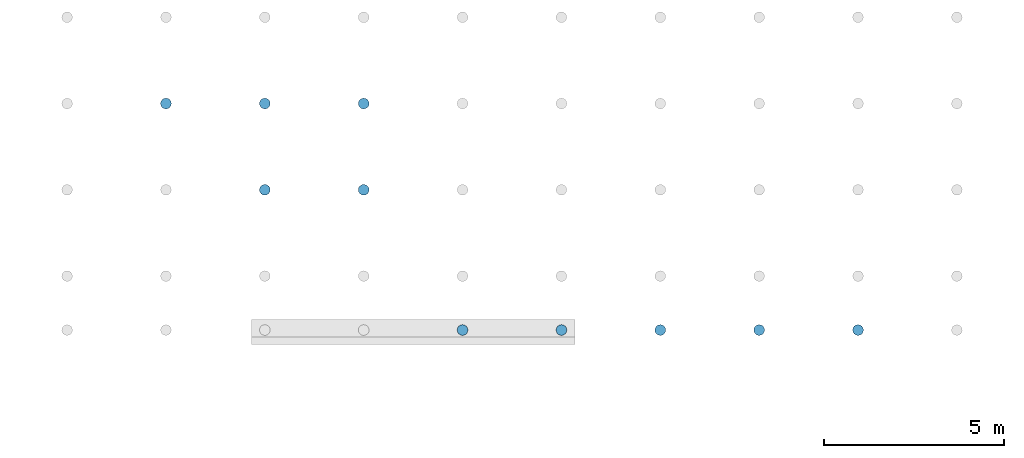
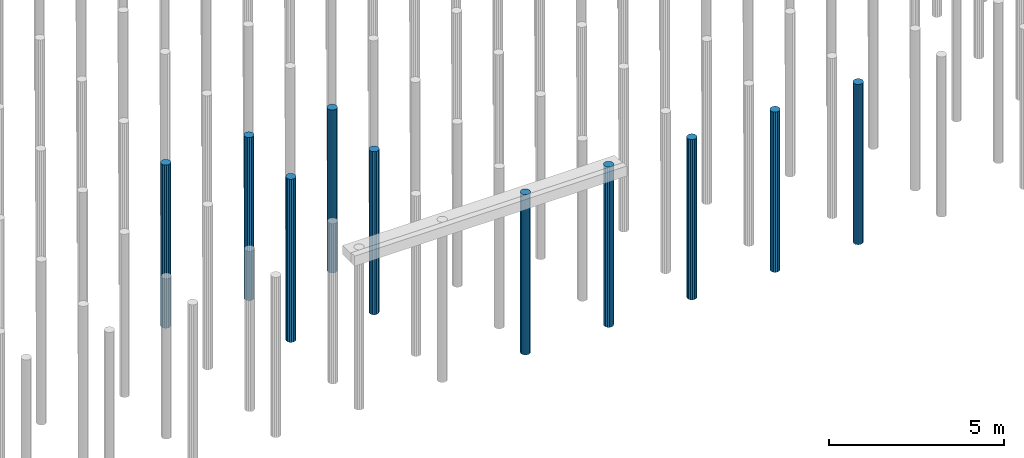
# One storey, part 53 of 102: 10 slabs.
"""IFC2X3 building model written with IfcOpenShell, lengths in millimetres."""

from ifc_helpers import new_model, entity, si_unit, converted_unit, derived_unit, money_unit, direction, frame, origin_with_axes, place, context, subcontext, project, spatial, faceted_brep, material, type_object, element, save


model = new_model("IFC2X3")

# Units and contexts
model_context = context("Model", 3, precision=0.01, world=origin_with_axes(), true_north=direction((0.0, 1.0)))
body_context = subcontext(model_context, "Body", "Model", "MODEL_VIEW")
ifc_project = project(units=[si_unit("LENGTHUNIT", "METRE", prefix="MILLI"), si_unit("AREAUNIT", "SQUARE_METRE"), si_unit("VOLUMEUNIT", "CUBIC_METRE"), converted_unit("PLANEANGLEUNIT", "DEGREE", entity("IfcPlaneAngleMeasure", 0.0174532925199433), si_unit("PLANEANGLEUNIT", "RADIAN"), dimensions=[0, 0, 0, 0, 0, 0, 0]), money_unit("EUR"), converted_unit("TIMEUNIT", "Year", entity("IfcTimeMeasure", 31557600.0), si_unit("TIMEUNIT", "SECOND"), dimensions=[0, 0, 1, 0, 0, 0, 0]), si_unit("MASSUNIT", "GRAM", prefix="KILO"), si_unit("THERMODYNAMICTEMPERATUREUNIT", "DEGREE_CELSIUS"), si_unit("LUMINOUSINTENSITYUNIT", "LUMEN"), si_unit("ENERGYUNIT", "JOULE", prefix="MEGA"), derived_unit("THERMALCONDUCTANCEUNIT", [(si_unit("POWERUNIT", "WATT"), 1), (si_unit("LENGTHUNIT", "METRE"), -1), (si_unit("THERMODYNAMICTEMPERATUREUNIT", "KELVIN"), -1)]), derived_unit("SPECIFICHEATCAPACITYUNIT", [(si_unit("ENERGYUNIT", "JOULE"), 1), (si_unit("MASSUNIT", "GRAM", prefix="KILO"), -1), (si_unit("THERMODYNAMICTEMPERATUREUNIT", "KELVIN"), -1)]), derived_unit("MASSDENSITYUNIT", [(si_unit("MASSUNIT", "GRAM", prefix="KILO"), 1), (si_unit("VOLUMEUNIT", "CUBIC_METRE"), -1)])], contexts=[model_context])

# Site, building, storey
site_placement = place(None, origin_with_axes())
site = spatial("IfcSite", under=ifc_project, at=site_placement, Name="Site", CompositionType="ELEMENT")
building_placement = place(site_placement, origin_with_axes())
building = spatial("IfcBuilding", under=site, at=building_placement, Name="Naam gebouw", CompositionType="ELEMENT")
storey_placement = place(building_placement, frame((0.0, 0.0, -1020.0), z_axis=(0.0, 0.0, 1.0), x_axis=(1.0, 0.0, 0.0)))
storey = spatial("IfcBuildingStorey", under=building, at=storey_placement, Name="-2 fundering", CompositionType="ELEMENT", Elevation=-1020.0)

# Slabs
ifc_material = material(Name="WSP_beton - ihwg beton")
slab_type_1 = type_object("IfcSlabType", Name="Slab 533", PredefinedType="NOTDEFINED")
slab_1_placement = place(storey_placement, frame((25299.99999999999, 30000.0, 979.9999952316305), z_axis=(0.0, 0.0, 1.0), x_axis=(1.0, 0.0, 0.0)))
element("IfcSlab", 1, at=slab_1_placement, inside=storey, type_object=slab_type_1, material=ifc_material, Name="17_WSP_FD_beton - fundatiepaal v21-2:ø300 (schroef)", PredefinedType="NOTDEFINED", context=body_context, shape_type="Brep", body=[
    faceted_brep([(75876.0, 36001.0, -5980.0), (75874.0, 36001.0, -5980.0), (75874.0, 36001.0, -5978.000000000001), (75876.0, 36001.0, -5978.000000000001), (75876.0, 35999.0, -5980.0), (75874.0, 35999.0, -5980.0), (75874.0, 35999.0, -5978.000000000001), (75876.0, 35999.0, -5978.000000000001)], [[[0, 1, 2, 3]], [[0, 4, 5, 1]], [[1, 5, 6, 2]], [[3, 2, 6, 7]], [[4, 0, 3, 7]], [[5, 4, 7, 6]]]),
    faceted_brep([(75725.0, 36000.0, -5980.0), (75736.41807012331, 35942.59748514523, -5980.0), (75736.41807012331, 35942.59748514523, -280.0000000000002), (75725.0, 36000.0, -280.0000000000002), (75736.41807012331, 36057.40251485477, -5980.0), (75768.93398282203, 36106.06601717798, -5980.0), (75817.59748514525, 36138.58192987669, -5980.0), (75875.0, 36150.0, -5980.0), (75932.40251485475, 36138.58192987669, -5980.0), (75981.06601717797, 36106.06601717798, -5980.0), (76013.58192987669, 36057.40251485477, -5980.0), (76025.0, 36000.0, -5980.0), (76013.58192987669, 35942.59748514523, -5980.0), (75981.06601717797, 35893.93398282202, -5980.0), (75932.40251485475, 35861.41807012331, -5980.0), (75875.0, 35850.0, -5980.0), (75817.59748514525, 35861.41807012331, -5980.0), (75768.93398282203, 35893.93398282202, -5980.0), (75768.93398282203, 35893.93398282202, -280.0000000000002), (75817.59748514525, 35861.41807012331, -280.0000000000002), (75875.0, 35850.0, -280.0000000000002), (75932.40251485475, 35861.41807012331, -280.0000000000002), (75981.06601717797, 35893.93398282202, -280.0000000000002), (76013.58192987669, 35942.59748514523, -280.0000000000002), (76025.0, 36000.0, -280.0000000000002), (76013.58192987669, 36057.40251485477, -280.0000000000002), (75981.06601717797, 36106.06601717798, -280.0000000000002), (75932.40251485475, 36138.58192987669, -280.0000000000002), (75875.0, 36150.0, -280.0000000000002), (75817.59748514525, 36138.58192987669, -280.0000000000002), (75768.93398282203, 36106.06601717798, -280.0000000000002), (75736.41807012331, 36057.40251485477, -280.0000000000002)], [[[0, 1, 2, 3]], [[0, 4, 5, 6, 7, 8, 9, 10, 11, 12, 13, 14, 15, 16, 17, 1]], [[1, 17, 18, 2]], [[3, 2, 18, 19, 20, 21, 22, 23, 24, 25, 26, 27, 28, 29, 30, 31]], [[4, 0, 3, 31]], [[5, 4, 31, 30]], [[6, 5, 30, 29]], [[7, 6, 29, 28]], [[8, 7, 28, 27]], [[9, 8, 27, 26]], [[10, 9, 26, 25]], [[11, 10, 25, 24]], [[12, 11, 24, 23]], [[13, 12, 23, 22]], [[14, 13, 22, 21]], [[15, 14, 21, 20]], [[16, 15, 20, 19]], [[17, 16, 19, 18]]]),
])
slab_type_2 = type_object("IfcSlabType", Name="Slab 534", PredefinedType="NOTDEFINED")
slab_2_placement = place(storey_placement, frame((25299.99999999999, 30000.0, 979.9999952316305), z_axis=(0.0, 0.0, 1.0), x_axis=(1.0, 0.0, 0.0)))
element("IfcSlab", 2, at=slab_2_placement, inside=storey, type_object=slab_type_2, material=ifc_material, Name="17_WSP_FD_beton - fundatiepaal v21-2:ø300 (schroef)", PredefinedType="NOTDEFINED", context=body_context, shape_type="Brep", body=[
    faceted_brep([(78626.0, 36001.0, -5980.0), (78624.0, 36001.0, -5980.0), (78624.0, 36001.0, -5978.000000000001), (78626.0, 36001.0, -5978.000000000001), (78626.0, 35999.0, -5980.0), (78624.0, 35999.0, -5980.0), (78624.0, 35999.0, -5978.000000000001), (78626.0, 35999.0, -5978.000000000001)], [[[0, 1, 2, 3]], [[0, 4, 5, 1]], [[1, 5, 6, 2]], [[3, 2, 6, 7]], [[4, 0, 3, 7]], [[5, 4, 7, 6]]]),
    faceted_brep([(78475.0, 36000.0, -5980.0), (78486.41807012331, 35942.59748514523, -5980.0), (78486.41807012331, 35942.59748514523, -280.0000000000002), (78475.0, 36000.0, -280.0000000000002), (78486.41807012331, 36057.40251485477, -5980.0), (78518.93398282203, 36106.06601717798, -5980.0), (78567.59748514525, 36138.58192987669, -5980.0), (78625.0, 36150.0, -5980.0), (78682.40251485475, 36138.58192987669, -5980.0), (78731.06601717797, 36106.06601717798, -5980.0), (78763.58192987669, 36057.40251485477, -5980.0), (78775.0, 36000.0, -5980.0), (78763.58192987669, 35942.59748514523, -5980.0), (78731.06601717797, 35893.93398282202, -5980.0), (78682.40251485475, 35861.41807012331, -5980.0), (78625.0, 35850.0, -5980.0), (78567.59748514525, 35861.41807012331, -5980.0), (78518.93398282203, 35893.93398282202, -5980.0), (78518.93398282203, 35893.93398282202, -280.0000000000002), (78567.59748514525, 35861.41807012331, -280.0000000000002), (78625.0, 35850.0, -280.0000000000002), (78682.40251485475, 35861.41807012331, -280.0000000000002), (78731.06601717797, 35893.93398282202, -280.0000000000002), (78763.58192987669, 35942.59748514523, -280.0000000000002), (78775.0, 36000.0, -280.0000000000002), (78763.58192987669, 36057.40251485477, -280.0000000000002), (78731.06601717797, 36106.06601717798, -280.0000000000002), (78682.40251485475, 36138.58192987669, -280.0000000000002), (78625.0, 36150.0, -280.0000000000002), (78567.59748514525, 36138.58192987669, -280.0000000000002), (78518.93398282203, 36106.06601717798, -280.0000000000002), (78486.41807012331, 36057.40251485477, -280.0000000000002)], [[[0, 1, 2, 3]], [[0, 4, 5, 6, 7, 8, 9, 10, 11, 12, 13, 14, 15, 16, 17, 1]], [[1, 17, 18, 2]], [[3, 2, 18, 19, 20, 21, 22, 23, 24, 25, 26, 27, 28, 29, 30, 31]], [[4, 0, 3, 31]], [[5, 4, 31, 30]], [[6, 5, 30, 29]], [[7, 6, 29, 28]], [[8, 7, 28, 27]], [[9, 8, 27, 26]], [[10, 9, 26, 25]], [[11, 10, 25, 24]], [[12, 11, 24, 23]], [[13, 12, 23, 22]], [[14, 13, 22, 21]], [[15, 14, 21, 20]], [[16, 15, 20, 19]], [[17, 16, 19, 18]]]),
])
slab_type_3 = type_object("IfcSlabType", Name="Slab 550", PredefinedType="NOTDEFINED")
slab_3_placement = place(storey_placement, frame((25299.99999999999, 30000.0, 979.9999952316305), z_axis=(0.0, 0.0, 1.0), x_axis=(1.0, 0.0, 0.0)))
element("IfcSlab", 3, at=slab_3_placement, inside=storey, type_object=slab_type_3, material=ifc_material, Name="17_WSP_FD_beton - fundatiepaal v21-2:ø300 (schroef)", PredefinedType="NOTDEFINED", context=body_context, shape_type="Brep", body=[
    faceted_brep([(73126.0, 38400.99999999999, -5980.0), (73124.0, 38400.99999999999, -5980.0), (73124.0, 38400.99999999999, -5978.000000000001), (73126.0, 38400.99999999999, -5978.000000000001), (73126.0, 38399.0, -5980.0), (73124.0, 38399.0, -5980.0), (73124.0, 38399.0, -5978.000000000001), (73126.0, 38399.0, -5978.000000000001)], [[[0, 1, 2, 3]], [[0, 4, 5, 1]], [[1, 5, 6, 2]], [[3, 2, 6, 7]], [[4, 0, 3, 7]], [[5, 4, 7, 6]]]),
    faceted_brep([(72975.0, 38400.0, -5980.0), (72986.41807012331, 38342.59748514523, -5980.0), (72986.41807012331, 38342.59748514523, -280.0000000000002), (72975.0, 38400.0, -280.0000000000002), (72986.41807012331, 38457.40251485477, -5980.0), (73018.93398282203, 38506.06601717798, -5980.0), (73067.59748514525, 38538.58192987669, -5980.0), (73125.0, 38550.0, -5980.0), (73182.40251485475, 38538.58192987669, -5980.0), (73231.06601717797, 38506.06601717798, -5980.0), (73263.58192987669, 38457.40251485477, -5980.0), (73275.0, 38400.0, -5980.0), (73263.58192987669, 38342.59748514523, -5980.0), (73231.06601717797, 38293.93398282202, -5980.0), (73182.40251485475, 38261.41807012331, -5980.0), (73125.0, 38250.0, -5980.0), (73067.59748514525, 38261.41807012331, -5980.0), (73018.93398282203, 38293.93398282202, -5980.0), (73018.93398282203, 38293.93398282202, -280.0000000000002), (73067.59748514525, 38261.41807012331, -280.0000000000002), (73125.0, 38250.0, -280.0000000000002), (73182.40251485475, 38261.41807012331, -280.0000000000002), (73231.06601717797, 38293.93398282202, -280.0000000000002), (73263.58192987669, 38342.59748514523, -280.0000000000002), (73275.0, 38400.0, -280.0000000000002), (73263.58192987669, 38457.40251485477, -280.0000000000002), (73231.06601717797, 38506.06601717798, -280.0000000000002), (73182.40251485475, 38538.58192987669, -280.0000000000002), (73125.0, 38550.0, -280.0000000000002), (73067.59748514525, 38538.58192987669, -280.0000000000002), (73018.93398282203, 38506.06601717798, -280.0000000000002), (72986.41807012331, 38457.40251485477, -280.0000000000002)], [[[0, 1, 2, 3]], [[0, 4, 5, 6, 7, 8, 9, 10, 11, 12, 13, 14, 15, 16, 17, 1]], [[1, 17, 18, 2]], [[3, 2, 18, 19, 20, 21, 22, 23, 24, 25, 26, 27, 28, 29, 30, 31]], [[4, 0, 3, 31]], [[5, 4, 31, 30]], [[6, 5, 30, 29]], [[7, 6, 29, 28]], [[8, 7, 28, 27]], [[9, 8, 27, 26]], [[10, 9, 26, 25]], [[11, 10, 25, 24]], [[12, 11, 24, 23]], [[13, 12, 23, 22]], [[14, 13, 22, 21]], [[15, 14, 21, 20]], [[16, 15, 20, 19]], [[17, 16, 19, 18]]]),
])
slab_type_4 = type_object("IfcSlabType", Name="Slab 551", PredefinedType="NOTDEFINED")
slab_4_placement = place(storey_placement, frame((25299.99999999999, 30000.0, 979.9999952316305), z_axis=(0.0, 0.0, 1.0), x_axis=(1.0, 0.0, 0.0)))
element("IfcSlab", 4, at=slab_4_placement, inside=storey, type_object=slab_type_4, material=ifc_material, Name="17_WSP_FD_beton - fundatiepaal v21-2:ø300 (schroef)", PredefinedType="NOTDEFINED", context=body_context, shape_type="Brep", body=[
    faceted_brep([(75876.0, 38400.99999999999, -5980.0), (75874.0, 38400.99999999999, -5980.0), (75874.0, 38400.99999999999, -5978.000000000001), (75876.0, 38400.99999999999, -5978.000000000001), (75876.0, 38399.0, -5980.0), (75874.0, 38399.0, -5980.0), (75874.0, 38399.0, -5978.000000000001), (75876.0, 38399.0, -5978.000000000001)], [[[0, 1, 2, 3]], [[0, 4, 5, 1]], [[1, 5, 6, 2]], [[3, 2, 6, 7]], [[4, 0, 3, 7]], [[5, 4, 7, 6]]]),
    faceted_brep([(75725.0, 38400.0, -5980.0), (75736.41807012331, 38342.59748514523, -5980.0), (75736.41807012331, 38342.59748514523, -280.0000000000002), (75725.0, 38400.0, -280.0000000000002), (75736.41807012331, 38457.40251485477, -5980.0), (75768.93398282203, 38506.06601717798, -5980.0), (75817.59748514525, 38538.58192987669, -5980.0), (75875.0, 38550.0, -5980.0), (75932.40251485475, 38538.58192987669, -5980.0), (75981.06601717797, 38506.06601717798, -5980.0), (76013.58192987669, 38457.40251485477, -5980.0), (76025.0, 38400.0, -5980.0), (76013.58192987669, 38342.59748514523, -5980.0), (75981.06601717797, 38293.93398282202, -5980.0), (75932.40251485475, 38261.41807012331, -5980.0), (75875.0, 38250.0, -5980.0), (75817.59748514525, 38261.41807012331, -5980.0), (75768.93398282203, 38293.93398282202, -5980.0), (75768.93398282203, 38293.93398282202, -280.0000000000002), (75817.59748514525, 38261.41807012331, -280.0000000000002), (75875.0, 38250.0, -280.0000000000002), (75932.40251485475, 38261.41807012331, -280.0000000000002), (75981.06601717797, 38293.93398282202, -280.0000000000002), (76013.58192987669, 38342.59748514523, -280.0000000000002), (76025.0, 38400.0, -280.0000000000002), (76013.58192987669, 38457.40251485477, -280.0000000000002), (75981.06601717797, 38506.06601717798, -280.0000000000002), (75932.40251485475, 38538.58192987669, -280.0000000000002), (75875.0, 38550.0, -280.0000000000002), (75817.59748514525, 38538.58192987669, -280.0000000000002), (75768.93398282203, 38506.06601717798, -280.0000000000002), (75736.41807012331, 38457.40251485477, -280.0000000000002)], [[[0, 1, 2, 3]], [[0, 4, 5, 6, 7, 8, 9, 10, 11, 12, 13, 14, 15, 16, 17, 1]], [[1, 17, 18, 2]], [[3, 2, 18, 19, 20, 21, 22, 23, 24, 25, 26, 27, 28, 29, 30, 31]], [[4, 0, 3, 31]], [[5, 4, 31, 30]], [[6, 5, 30, 29]], [[7, 6, 29, 28]], [[8, 7, 28, 27]], [[9, 8, 27, 26]], [[10, 9, 26, 25]], [[11, 10, 25, 24]], [[12, 11, 24, 23]], [[13, 12, 23, 22]], [[14, 13, 22, 21]], [[15, 14, 21, 20]], [[16, 15, 20, 19]], [[17, 16, 19, 18]]]),
])
slab_type_5 = type_object("IfcSlabType", Name="Slab 552", PredefinedType="NOTDEFINED")
slab_5_placement = place(storey_placement, frame((25299.99999999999, 30000.0, 979.9999952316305), z_axis=(0.0, 0.0, 1.0), x_axis=(1.0, 0.0, 0.0)))
element("IfcSlab", 5, at=slab_5_placement, inside=storey, type_object=slab_type_5, material=ifc_material, Name="17_WSP_FD_beton - fundatiepaal v21-2:ø300 (schroef)", PredefinedType="NOTDEFINED", context=body_context, shape_type="Brep", body=[
    faceted_brep([(78626.0, 38400.99999999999, -5980.0), (78624.0, 38400.99999999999, -5980.0), (78624.0, 38400.99999999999, -5978.000000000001), (78626.0, 38400.99999999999, -5978.000000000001), (78626.0, 38399.0, -5980.0), (78624.0, 38399.0, -5980.0), (78624.0, 38399.0, -5978.000000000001), (78626.0, 38399.0, -5978.000000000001)], [[[0, 1, 2, 3]], [[0, 4, 5, 1]], [[1, 5, 6, 2]], [[3, 2, 6, 7]], [[4, 0, 3, 7]], [[5, 4, 7, 6]]]),
    faceted_brep([(78475.0, 38400.0, -5980.0), (78486.41807012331, 38342.59748514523, -5980.0), (78486.41807012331, 38342.59748514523, -280.0000000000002), (78475.0, 38400.0, -280.0000000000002), (78486.41807012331, 38457.40251485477, -5980.0), (78518.93398282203, 38506.06601717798, -5980.0), (78567.59748514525, 38538.58192987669, -5980.0), (78625.0, 38550.0, -5980.0), (78682.40251485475, 38538.58192987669, -5980.0), (78731.06601717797, 38506.06601717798, -5980.0), (78763.58192987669, 38457.40251485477, -5980.0), (78775.0, 38400.0, -5980.0), (78763.58192987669, 38342.59748514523, -5980.0), (78731.06601717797, 38293.93398282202, -5980.0), (78682.40251485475, 38261.41807012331, -5980.0), (78625.0, 38250.0, -5980.0), (78567.59748514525, 38261.41807012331, -5980.0), (78518.93398282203, 38293.93398282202, -5980.0), (78518.93398282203, 38293.93398282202, -280.0000000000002), (78567.59748514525, 38261.41807012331, -280.0000000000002), (78625.0, 38250.0, -280.0000000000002), (78682.40251485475, 38261.41807012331, -280.0000000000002), (78731.06601717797, 38293.93398282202, -280.0000000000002), (78763.58192987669, 38342.59748514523, -280.0000000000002), (78775.0, 38400.0, -280.0000000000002), (78763.58192987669, 38457.40251485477, -280.0000000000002), (78731.06601717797, 38506.06601717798, -280.0000000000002), (78682.40251485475, 38538.58192987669, -280.0000000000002), (78625.0, 38550.0, -280.0000000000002), (78567.59748514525, 38538.58192987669, -280.0000000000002), (78518.93398282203, 38506.06601717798, -280.0000000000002), (78486.41807012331, 38457.40251485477, -280.0000000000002)], [[[0, 1, 2, 3]], [[0, 4, 5, 6, 7, 8, 9, 10, 11, 12, 13, 14, 15, 16, 17, 1]], [[1, 17, 18, 2]], [[3, 2, 18, 19, 20, 21, 22, 23, 24, 25, 26, 27, 28, 29, 30, 31]], [[4, 0, 3, 31]], [[5, 4, 31, 30]], [[6, 5, 30, 29]], [[7, 6, 29, 28]], [[8, 7, 28, 27]], [[9, 8, 27, 26]], [[10, 9, 26, 25]], [[11, 10, 25, 24]], [[12, 11, 24, 23]], [[13, 12, 23, 22]], [[14, 13, 22, 21]], [[15, 14, 21, 20]], [[16, 15, 20, 19]], [[17, 16, 19, 18]]]),
])
slab_type_6 = type_object("IfcSlabType", Name="Slab 702", PredefinedType="NOTDEFINED")
slab_6_placement = place(storey_placement, frame((25299.99999999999, 30000.0, 979.9999952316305), z_axis=(0.0, 0.0, 1.0), x_axis=(1.0, 0.0, 0.0)))
element("IfcSlab", 6, at=slab_6_placement, inside=storey, type_object=slab_type_6, material=ifc_material, Name="17_WSP_FD_beton - fundatiepaal v21-2:ø300 (schroef)", PredefinedType="NOTDEFINED", context=body_context, shape_type="Brep", body=[
    faceted_brep([(81376.0, 32101.0, -5980.0), (81374.0, 32101.0, -5980.0), (81374.0, 32101.0, -5978.000000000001), (81376.0, 32101.0, -5978.000000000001), (81376.0, 32099.0, -5980.0), (81374.0, 32099.0, -5980.0), (81374.0, 32099.0, -5978.000000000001), (81376.0, 32099.0, -5978.000000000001)], [[[0, 1, 2, 3]], [[0, 4, 5, 1]], [[1, 5, 6, 2]], [[3, 2, 6, 7]], [[4, 0, 3, 7]], [[5, 4, 7, 6]]]),
    faceted_brep([(81225.0, 32100.0, -5980.0), (81236.41807012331, 32042.59748514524, -5980.0), (81236.41807012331, 32042.59748514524, -380.0000000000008), (81225.0, 32100.0, -380.0000000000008), (81236.41807012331, 32157.40251485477, -5980.0), (81268.93398282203, 32206.06601717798, -5980.0), (81317.59748514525, 32238.58192987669, -5980.0), (81375.0, 32250.0, -5980.0), (81432.40251485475, 32238.58192987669, -5980.0), (81481.06601717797, 32206.06601717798, -5980.0), (81513.58192987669, 32157.40251485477, -5980.0), (81525.0, 32100.0, -5980.0), (81513.58192987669, 32042.59748514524, -5980.0), (81481.06601717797, 31993.93398282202, -5980.0), (81432.40251485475, 31961.41807012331, -5980.0), (81375.0, 31950.0, -5980.0), (81317.59748514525, 31961.41807012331, -5980.0), (81268.93398282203, 31993.93398282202, -5980.0), (81268.93398282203, 31993.93398282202, -380.0000000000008), (81317.59748514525, 31961.41807012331, -380.0000000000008), (81375.0, 31950.0, -380.0000000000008), (81432.40251485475, 31961.41807012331, -380.0000000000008), (81481.06601717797, 31993.93398282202, -380.0000000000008), (81513.58192987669, 32042.59748514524, -380.0000000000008), (81525.0, 32100.0, -380.0000000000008), (81513.58192987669, 32157.40251485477, -380.0000000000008), (81481.06601717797, 32206.06601717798, -380.0000000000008), (81432.40251485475, 32238.58192987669, -380.0000000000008), (81375.0, 32250.0, -380.0000000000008), (81317.59748514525, 32238.58192987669, -380.0000000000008), (81268.93398282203, 32206.06601717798, -380.0000000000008), (81236.41807012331, 32157.40251485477, -380.0000000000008)], [[[0, 1, 2, 3]], [[0, 4, 5, 6, 7, 8, 9, 10, 11, 12, 13, 14, 15, 16, 17, 1]], [[1, 17, 18, 2]], [[3, 2, 18, 19, 20, 21, 22, 23, 24, 25, 26, 27, 28, 29, 30, 31]], [[4, 0, 3, 31]], [[5, 4, 31, 30]], [[6, 5, 30, 29]], [[7, 6, 29, 28]], [[8, 7, 28, 27]], [[9, 8, 27, 26]], [[10, 9, 26, 25]], [[11, 10, 25, 24]], [[12, 11, 24, 23]], [[13, 12, 23, 22]], [[14, 13, 22, 21]], [[15, 14, 21, 20]], [[16, 15, 20, 19]], [[17, 16, 19, 18]]]),
])
slab_type_7 = type_object("IfcSlabType", Name="Slab 704", PredefinedType="NOTDEFINED")
slab_7_placement = place(storey_placement, frame((25299.99999999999, 30000.0, 979.9999952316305), z_axis=(0.0, 0.0, 1.0), x_axis=(1.0, 0.0, 0.0)))
element("IfcSlab", 7, at=slab_7_placement, inside=storey, type_object=slab_type_7, material=ifc_material, Name="17_WSP_FD_beton - fundatiepaal v21-2:ø300 (schroef)", PredefinedType="NOTDEFINED", context=body_context, shape_type="Brep", body=[
    faceted_brep([(86876.0, 32101.0, -5980.0), (86874.0, 32101.0, -5980.0), (86874.0, 32101.0, -5978.000000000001), (86876.0, 32101.0, -5978.000000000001), (86876.0, 32099.0, -5980.0), (86874.0, 32099.0, -5980.0), (86874.0, 32099.0, -5978.000000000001), (86876.0, 32099.0, -5978.000000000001)], [[[0, 1, 2, 3]], [[0, 4, 5, 1]], [[1, 5, 6, 2]], [[3, 2, 6, 7]], [[4, 0, 3, 7]], [[5, 4, 7, 6]]]),
    faceted_brep([(86725.0, 32100.0, -5980.0), (86736.41807012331, 32042.59748514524, -5980.0), (86736.41807012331, 32042.59748514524, -380.0000000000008), (86725.0, 32100.0, -380.0000000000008), (86736.41807012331, 32157.40251485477, -5980.0), (86768.93398282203, 32206.06601717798, -5980.0), (86817.59748514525, 32238.58192987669, -5980.0), (86875.0, 32250.0, -5980.0), (86932.40251485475, 32238.58192987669, -5980.0), (86981.06601717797, 32206.06601717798, -5980.0), (87013.58192987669, 32157.40251485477, -5980.0), (87025.0, 32100.0, -5980.0), (87013.58192987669, 32042.59748514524, -5980.0), (86981.06601717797, 31993.93398282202, -5980.0), (86932.40251485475, 31961.41807012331, -5980.0), (86875.0, 31950.0, -5980.0), (86817.59748514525, 31961.41807012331, -5980.0), (86768.93398282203, 31993.93398282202, -5980.0), (86768.93398282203, 31993.93398282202, -380.0000000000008), (86817.59748514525, 31961.41807012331, -380.0000000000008), (86875.0, 31950.0, -380.0000000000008), (86932.40251485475, 31961.41807012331, -380.0000000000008), (86981.06601717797, 31993.93398282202, -380.0000000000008), (87013.58192987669, 32042.59748514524, -380.0000000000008), (87025.0, 32100.0, -380.0000000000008), (87013.58192987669, 32157.40251485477, -380.0000000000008), (86981.06601717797, 32206.06601717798, -380.0000000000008), (86932.40251485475, 32238.58192987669, -380.0000000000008), (86875.0, 32250.0, -380.0000000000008), (86817.59748514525, 32238.58192987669, -380.0000000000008), (86768.93398282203, 32206.06601717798, -380.0000000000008), (86736.41807012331, 32157.40251485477, -380.0000000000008)], [[[0, 1, 2, 3]], [[0, 4, 5, 6, 7, 8, 9, 10, 11, 12, 13, 14, 15, 16, 17, 1]], [[1, 17, 18, 2]], [[3, 2, 18, 19, 20, 21, 22, 23, 24, 25, 26, 27, 28, 29, 30, 31]], [[4, 0, 3, 31]], [[5, 4, 31, 30]], [[6, 5, 30, 29]], [[7, 6, 29, 28]], [[8, 7, 28, 27]], [[9, 8, 27, 26]], [[10, 9, 26, 25]], [[11, 10, 25, 24]], [[12, 11, 24, 23]], [[13, 12, 23, 22]], [[14, 13, 22, 21]], [[15, 14, 21, 20]], [[16, 15, 20, 19]], [[17, 16, 19, 18]]]),
])
slab_type_8 = type_object("IfcSlabType", Name="Slab 705", PredefinedType="NOTDEFINED")
slab_8_placement = place(storey_placement, frame((25299.99999999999, 30000.0, 979.9999952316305), z_axis=(0.0, 0.0, 1.0), x_axis=(1.0, 0.0, 0.0)))
element("IfcSlab", 8, at=slab_8_placement, inside=storey, type_object=slab_type_8, material=ifc_material, Name="17_WSP_FD_beton - fundatiepaal v21-2:ø300 (schroef)", PredefinedType="NOTDEFINED", context=body_context, shape_type="Brep", body=[
    faceted_brep([(89626.0, 32101.0, -5980.0), (89624.0, 32101.0, -5980.0), (89624.0, 32101.0, -5978.000000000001), (89626.0, 32101.0, -5978.000000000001), (89626.0, 32099.0, -5980.0), (89624.0, 32099.0, -5980.0), (89624.0, 32099.0, -5978.000000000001), (89626.0, 32099.0, -5978.000000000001)], [[[0, 1, 2, 3]], [[0, 4, 5, 1]], [[1, 5, 6, 2]], [[3, 2, 6, 7]], [[4, 0, 3, 7]], [[5, 4, 7, 6]]]),
    faceted_brep([(89475.0, 32100.0, -5980.0), (89486.41807012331, 32042.59748514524, -5980.0), (89486.41807012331, 32042.59748514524, -380.0000000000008), (89475.0, 32100.0, -380.0000000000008), (89486.41807012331, 32157.40251485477, -5980.0), (89518.93398282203, 32206.06601717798, -5980.0), (89567.59748514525, 32238.58192987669, -5980.0), (89625.0, 32250.0, -5980.0), (89682.40251485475, 32238.58192987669, -5980.0), (89731.06601717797, 32206.06601717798, -5980.0), (89763.58192987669, 32157.40251485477, -5980.0), (89775.0, 32100.0, -5980.0), (89763.58192987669, 32042.59748514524, -5980.0), (89731.06601717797, 31993.93398282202, -5980.0), (89682.40251485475, 31961.41807012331, -5980.0), (89625.0, 31950.0, -5980.0), (89567.59748514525, 31961.41807012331, -5980.0), (89518.93398282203, 31993.93398282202, -5980.0), (89518.93398282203, 31993.93398282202, -380.0000000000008), (89567.59748514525, 31961.41807012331, -380.0000000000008), (89625.0, 31950.0, -380.0000000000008), (89682.40251485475, 31961.41807012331, -380.0000000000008), (89731.06601717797, 31993.93398282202, -380.0000000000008), (89763.58192987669, 32042.59748514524, -380.0000000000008), (89775.0, 32100.0, -380.0000000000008), (89763.58192987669, 32157.40251485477, -380.0000000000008), (89731.06601717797, 32206.06601717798, -380.0000000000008), (89682.40251485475, 32238.58192987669, -380.0000000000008), (89625.0, 32250.0, -380.0000000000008), (89567.59748514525, 32238.58192987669, -380.0000000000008), (89518.93398282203, 32206.06601717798, -380.0000000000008), (89486.41807012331, 32157.40251485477, -380.0000000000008)], [[[0, 1, 2, 3]], [[0, 4, 5, 6, 7, 8, 9, 10, 11, 12, 13, 14, 15, 16, 17, 1]], [[1, 17, 18, 2]], [[3, 2, 18, 19, 20, 21, 22, 23, 24, 25, 26, 27, 28, 29, 30, 31]], [[4, 0, 3, 31]], [[5, 4, 31, 30]], [[6, 5, 30, 29]], [[7, 6, 29, 28]], [[8, 7, 28, 27]], [[9, 8, 27, 26]], [[10, 9, 26, 25]], [[11, 10, 25, 24]], [[12, 11, 24, 23]], [[13, 12, 23, 22]], [[14, 13, 22, 21]], [[15, 14, 21, 20]], [[16, 15, 20, 19]], [[17, 16, 19, 18]]]),
])
slab_type_9 = type_object("IfcSlabType", Name="Slab 706", PredefinedType="NOTDEFINED")
slab_9_placement = place(storey_placement, frame((25299.99999999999, 30000.0, 979.9999952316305), z_axis=(0.0, 0.0, 1.0), x_axis=(1.0, 0.0, 0.0)))
element("IfcSlab", 9, at=slab_9_placement, inside=storey, type_object=slab_type_9, material=ifc_material, Name="17_WSP_FD_beton - fundatiepaal v21-2:ø300 (schroef)", PredefinedType="NOTDEFINED", context=body_context, shape_type="Brep", body=[
    faceted_brep([(92376.0, 32101.0, -5980.0), (92374.0, 32101.0, -5980.0), (92374.0, 32101.0, -5978.000000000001), (92376.0, 32101.0, -5978.000000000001), (92376.0, 32099.0, -5980.0), (92374.0, 32099.0, -5980.0), (92374.0, 32099.0, -5978.000000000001), (92376.0, 32099.0, -5978.000000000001)], [[[0, 1, 2, 3]], [[0, 4, 5, 1]], [[1, 5, 6, 2]], [[3, 2, 6, 7]], [[4, 0, 3, 7]], [[5, 4, 7, 6]]]),
    faceted_brep([(92225.0, 32100.0, -5980.0), (92236.41807012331, 32042.59748514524, -5980.0), (92236.41807012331, 32042.59748514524, -380.0000000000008), (92225.0, 32100.0, -380.0000000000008), (92236.41807012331, 32157.40251485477, -5980.0), (92268.93398282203, 32206.06601717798, -5980.0), (92317.59748514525, 32238.58192987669, -5980.0), (92375.0, 32250.0, -5980.0), (92432.40251485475, 32238.58192987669, -5980.0), (92481.06601717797, 32206.06601717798, -5980.0), (92513.58192987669, 32157.40251485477, -5980.0), (92525.0, 32100.0, -5980.0), (92513.58192987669, 32042.59748514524, -5980.0), (92481.06601717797, 31993.93398282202, -5980.0), (92432.40251485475, 31961.41807012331, -5980.0), (92375.0, 31950.0, -5980.0), (92317.59748514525, 31961.41807012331, -5980.0), (92268.93398282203, 31993.93398282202, -5980.0), (92268.93398282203, 31993.93398282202, -380.0000000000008), (92317.59748514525, 31961.41807012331, -380.0000000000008), (92375.0, 31950.0, -380.0000000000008), (92432.40251485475, 31961.41807012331, -380.0000000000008), (92481.06601717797, 31993.93398282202, -380.0000000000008), (92513.58192987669, 32042.59748514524, -380.0000000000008), (92525.0, 32100.0, -380.0000000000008), (92513.58192987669, 32157.40251485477, -380.0000000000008), (92481.06601717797, 32206.06601717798, -380.0000000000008), (92432.40251485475, 32238.58192987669, -380.0000000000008), (92375.0, 32250.0, -380.0000000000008), (92317.59748514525, 32238.58192987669, -380.0000000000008), (92268.93398282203, 32206.06601717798, -380.0000000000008), (92236.41807012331, 32157.40251485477, -380.0000000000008)], [[[0, 1, 2, 3]], [[0, 4, 5, 6, 7, 8, 9, 10, 11, 12, 13, 14, 15, 16, 17, 1]], [[1, 17, 18, 2]], [[3, 2, 18, 19, 20, 21, 22, 23, 24, 25, 26, 27, 28, 29, 30, 31]], [[4, 0, 3, 31]], [[5, 4, 31, 30]], [[6, 5, 30, 29]], [[7, 6, 29, 28]], [[8, 7, 28, 27]], [[9, 8, 27, 26]], [[10, 9, 26, 25]], [[11, 10, 25, 24]], [[12, 11, 24, 23]], [[13, 12, 23, 22]], [[14, 13, 22, 21]], [[15, 14, 21, 20]], [[16, 15, 20, 19]], [[17, 16, 19, 18]]]),
])
slab_type_10 = type_object("IfcSlabType", Name="Slab 703", PredefinedType="NOTDEFINED")
slab_10_placement = place(storey_placement, frame((25299.99999999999, 30000.0, 979.9999952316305), z_axis=(0.0, 0.0, 1.0), x_axis=(1.0, 0.0, 0.0)))
element("IfcSlab", 10, at=slab_10_placement, inside=storey, type_object=slab_type_10, material=ifc_material, Name="17_WSP_FD_beton - fundatiepaal v21-2:ø300 (schroef)", PredefinedType="NOTDEFINED", context=body_context, shape_type="Brep", body=[
    faceted_brep([(84126.0, 32101.0, -5980.0), (84124.0, 32101.0, -5980.0), (84124.0, 32101.0, -5978.000000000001), (84126.0, 32101.0, -5978.000000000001), (84126.0, 32099.0, -5980.0), (84124.0, 32099.0, -5980.0), (84124.0, 32099.0, -5978.000000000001), (84126.0, 32099.0, -5978.000000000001)], [[[0, 1, 2, 3]], [[0, 4, 5, 1]], [[1, 5, 6, 2]], [[3, 2, 6, 7]], [[4, 0, 3, 7]], [[5, 4, 7, 6]]]),
    faceted_brep([(83975.0, 32100.0, -5980.0), (83986.41807012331, 32042.59748514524, -5980.0), (83986.41807012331, 32042.59748514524, -380.0000000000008), (83975.0, 32100.0, -380.0000000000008), (83986.41807012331, 32157.40251485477, -5980.0), (84018.93398282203, 32206.06601717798, -5980.0), (84067.59748514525, 32238.58192987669, -5980.0), (84125.0, 32250.0, -5980.0), (84182.40251485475, 32238.58192987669, -5980.0), (84231.06601717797, 32206.06601717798, -5980.0), (84263.58192987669, 32157.40251485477, -5980.0), (84275.0, 32100.0, -5980.0), (84263.58192987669, 32042.59748514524, -5980.0), (84231.06601717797, 31993.93398282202, -5980.0), (84182.40251485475, 31961.41807012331, -5980.0), (84125.0, 31950.0, -5980.0), (84067.59748514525, 31961.41807012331, -5980.0), (84018.93398282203, 31993.93398282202, -5980.0), (84018.93398282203, 31993.93398282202, -380.0000000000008), (84067.59748514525, 31961.41807012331, -380.0000000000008), (84125.0, 31950.0, -380.0000000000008), (84182.40251485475, 31961.41807012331, -380.0000000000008), (84231.06601717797, 31993.93398282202, -380.0000000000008), (84263.58192987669, 32042.59748514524, -380.0000000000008), (84275.0, 32100.0, -380.0000000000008), (84263.58192987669, 32157.40251485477, -380.0000000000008), (84231.06601717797, 32206.06601717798, -380.0000000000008), (84182.40251485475, 32238.58192987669, -380.0000000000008), (84125.0, 32250.0, -380.0000000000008), (84067.59748514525, 32238.58192987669, -380.0000000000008), (84018.93398282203, 32206.06601717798, -380.0000000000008), (83986.41807012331, 32157.40251485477, -380.0000000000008)], [[[0, 1, 2, 3]], [[0, 4, 5, 6, 7, 8, 9, 10, 11, 12, 13, 14, 15, 16, 17, 1]], [[1, 17, 18, 2]], [[3, 2, 18, 19, 20, 21, 22, 23, 24, 25, 26, 27, 28, 29, 30, 31]], [[4, 0, 3, 31]], [[5, 4, 31, 30]], [[6, 5, 30, 29]], [[7, 6, 29, 28]], [[8, 7, 28, 27]], [[9, 8, 27, 26]], [[10, 9, 26, 25]], [[11, 10, 25, 24]], [[12, 11, 24, 23]], [[13, 12, 23, 22]], [[14, 13, 22, 21]], [[15, 14, 21, 20]], [[16, 15, 20, 19]], [[17, 16, 19, 18]]]),
])

save(model, "model.ifc")
